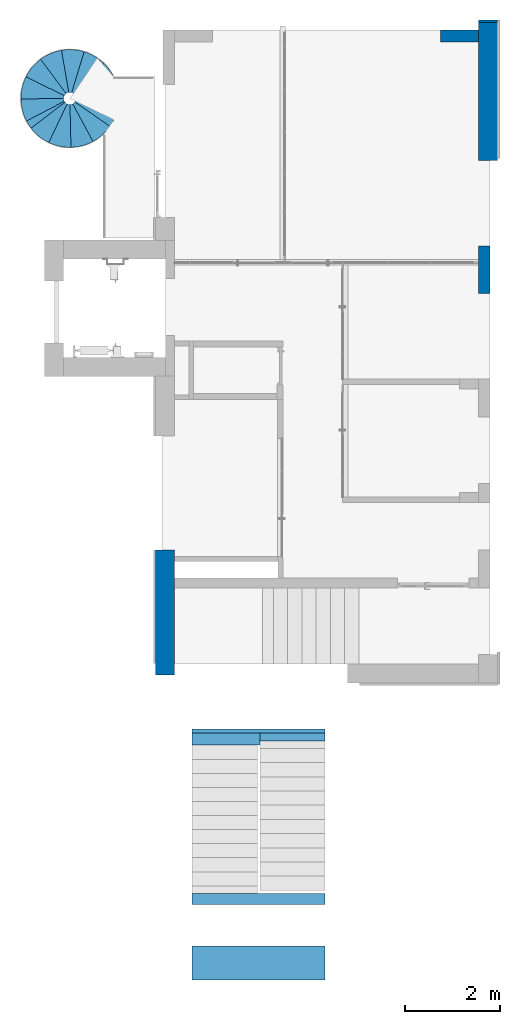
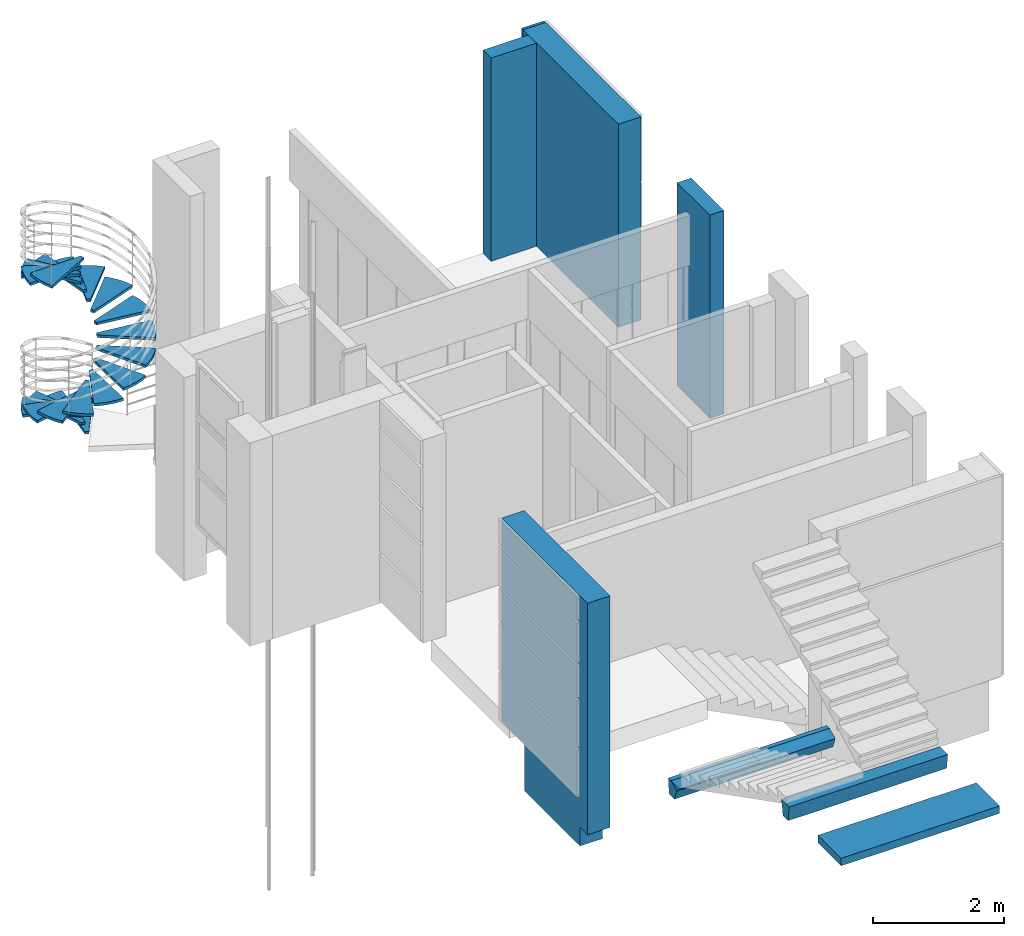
# One storey, part 7 of 14: 5 walls, 4 stairs, 1 stair flight, 5 elements without a shape of their own.
"""IFC2X3 building model written with IfcOpenShell, lengths in millimetres."""

from ifc_helpers import new_model, entity, si_unit, converted_unit, derived_unit, direction, frame, frame_2d, origin, place, context, subcontext, project, spatial, polyline, circle_curve, parameter, trimmed, segment, composite_curve, rectangle, outline, extrude, faceted_brep, material, layer, layer_set, layer_usage, type_object, element, aggregate, save


model = new_model("IFC2X3")

# Units and contexts
model_context = context("Model", 3, precision=0.01, world=origin(), true_north=direction((6.12303176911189e-17, 1.0)))
body_context = subcontext(model_context, "Body", "Model", "MODEL_VIEW")
ifc_project = project(units=[si_unit("LENGTHUNIT", "METRE", prefix="MILLI"), si_unit("AREAUNIT", "SQUARE_METRE"), si_unit("VOLUMEUNIT", "CUBIC_METRE"), converted_unit("PLANEANGLEUNIT", "DEGREE", entity("IfcRatioMeasure", 0.0174532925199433), si_unit("PLANEANGLEUNIT", "RADIAN"), dimensions=[0, 0, 0, 0, 0, 0, 0]), si_unit("MASSUNIT", "GRAM", prefix="KILO"), derived_unit("MASSDENSITYUNIT", [(si_unit("MASSUNIT", "GRAM", prefix="KILO"), 1), (si_unit("LENGTHUNIT", "METRE"), -3)]), si_unit("TIMEUNIT", "SECOND"), si_unit("FREQUENCYUNIT", "HERTZ"), si_unit("THERMODYNAMICTEMPERATUREUNIT", "DEGREE_CELSIUS"), derived_unit("THERMALTRANSMITTANCEUNIT", [(si_unit("MASSUNIT", "GRAM", prefix="KILO"), 1), (si_unit("THERMODYNAMICTEMPERATUREUNIT", "KELVIN"), -1), (si_unit("TIMEUNIT", "SECOND"), -3)]), derived_unit("VOLUMETRICFLOWRATEUNIT", [(si_unit("LENGTHUNIT", "METRE"), 3), (si_unit("TIMEUNIT", "SECOND"), -1)]), si_unit("ELECTRICCURRENTUNIT", "AMPERE"), si_unit("ELECTRICVOLTAGEUNIT", "VOLT"), si_unit("POWERUNIT", "WATT"), si_unit("FORCEUNIT", "NEWTON", prefix="KILO"), si_unit("ILLUMINANCEUNIT", "LUX"), si_unit("LUMINOUSFLUXUNIT", "LUMEN"), si_unit("LUMINOUSINTENSITYUNIT", "CANDELA"), derived_unit("USERDEFINED", [(si_unit("MASSUNIT", "GRAM", prefix="KILO"), -1), (si_unit("LENGTHUNIT", "METRE"), -2), (si_unit("TIMEUNIT", "SECOND"), 3), (si_unit("LUMINOUSFLUXUNIT", "LUMEN"), 1)]), derived_unit("LINEARVELOCITYUNIT", [(si_unit("LENGTHUNIT", "METRE"), 1), (si_unit("TIMEUNIT", "SECOND"), -1)]), si_unit("PRESSUREUNIT", "PASCAL"), derived_unit("USERDEFINED", [(si_unit("LENGTHUNIT", "METRE"), -2), (si_unit("MASSUNIT", "GRAM", prefix="KILO"), 1), (si_unit("TIMEUNIT", "SECOND"), -2)])], contexts=[model_context])

# Site, building, storey
site_placement = place(None, frame((-151.875543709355, 2715.0, 0.0)))
site = spatial("IfcSite", under=ifc_project, at=site_placement, Name="Surface", CompositionType="ELEMENT")
building_placement = place(site_placement, origin())
building = spatial("IfcBuilding", under=site, at=building_placement, CompositionType="ELEMENT")
storey_placement = place(building_placement, frame((0.0, 0.0, 3875.0)))
storey = spatial("IfcBuildingStorey", under=building, at=storey_placement, Name="uus 2 korrus", CompositionType="ELEMENT", Elevation=3875.00000000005)

# Walls
ifc_material_1 = material(Name="__Tuuletõkkeplaat")
ifc_layer_1 = layer(ifc_material_1, 9.0)
ifc_material_2 = material(Name="__Soojustus EPS")
ifc_layer_2 = layer(ifc_material_2, 200.0)
ifc_material_3 = material(Name="__Kergblokk")
ifc_layer_3 = layer(ifc_material_3, 190.0)
ifc_layer_set_1 = layer_set([ifc_layer_1, ifc_layer_2, ifc_layer_3], Name="Basic Wall:VS-2.2_Juurdeehituse välissein")
wall_type_1 = type_object("IfcWallType", Name="Basic Wall:VS-2.2_Juurdeehituse välissein", PredefinedType="STANDARD", material=ifc_layer_set_1)
wall_1_placement = place(storey_placement, frame((31802.1162682, 12980.0, -875.0), z_axis=(0.0, 0.0, 1.0), x_axis=(0.0, 1.0, 0.0)))
element("IfcWall", 1, at=wall_1_placement, inside=storey, type_object=wall_type_1, Name="Basic Wall:VS-2.2_Juurdeehituse välissein", ObjectType="Basic Wall:VS-2.2_Juurdeehituse välissein", context=body_context, shape_type="Brep", body=[
    faceted_brep([(230.0, -199.500000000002, 0.0), (1935.0, -199.500000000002, 0.0), (1935.0, -199.500000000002, 875.0), (2040.0, -199.500000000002, 875.0), (2630.0, -199.500000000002, 875.0), (2630.0, -199.500000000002, 4670.0), (0.0, -199.500000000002, 4670.0), (0.0, -199.500000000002, 350.0), (230.0, -199.500000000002, 350.0), (230.0, 199.499999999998, 0.0), (230.0, 199.499999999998, 350.0), (0.0, 199.499999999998, 350.0), (0.0, 199.499999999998, 4670.0), (2630.0, 199.499999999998, 4670.0), (2630.0, 199.499999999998, 875.0), (1935.0, 199.499999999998, 875.0), (1935.0, 199.499999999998, 0.0)], [[[0, 1, 2, 3, 4, 5, 6, 7, 8]], [[9, 10, 11, 12, 13, 14, 15, 16]], [[4, 3, 2, 15, 14]], [[5, 4, 14, 13]], [[6, 5, 13, 12]], [[1, 0, 9, 16]], [[2, 1, 16, 15]], [[7, 11, 10, 8]], [[6, 12, 11, 7]], [[0, 8, 10, 9]]]),
])
ifc_layer_usage_1 = layer_usage(ifc_layer_set_1, "AXIS2", "NEGATIVE", 199.5)
wall_2_placement = place(storey_placement, frame((38596.1162682, 26719.0, 0.0), z_axis=(0.0, 0.0, 1.0), x_axis=(0.0, -1.0, 0.0)))
element("IfcWallStandardCase", 2, at=wall_2_placement, inside=storey, type_object=wall_type_1, material=ifc_layer_usage_1, Name="Basic Wall:VS-2.2_Juurdeehituse välissein", ObjectType="Basic Wall:VS-2.2_Juurdeehituse välissein", context=body_context, shape_type="SweptSolid", body=[
    extrude(rectangle(XDim=2908.999570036, YDim=398.999999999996, at=frame_2d((1454.499785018, -4.68958205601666e-13), x_axis=(-1.0, 0.0))), origin(), (0.0, 0.0, 1.0), 3795.0),
])
ifc_layer_4 = layer(ifc_material_2, 57.0)
ifc_layer_5 = layer(ifc_material_3, 190.0)
ifc_layer_set_2 = layer_set([ifc_layer_4, ifc_layer_5], Name="Basic Wall:VS-2.1_Juurdeehituse välissein 2")
ifc_layer_usage_2 = layer_usage(ifc_layer_set_2, "AXIS2", "NEGATIVE", 123.5)
wall_type_2 = type_object("IfcWallType", Name="Basic Wall:VS-2.1_Juurdeehituse välissein 2", PredefinedType="STANDARD", material=ifc_layer_set_2)
wall_3_placement = place(storey_placement, frame((38520.1162682, 22009.955126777, 0.0), z_axis=(0.0, 0.0, 1.0), x_axis=(0.0, -1.0, 0.0)))
element("IfcWallStandardCase", 3, at=wall_3_placement, inside=storey, type_object=wall_type_2, material=ifc_layer_usage_2, Name="Basic Wall:VS-2.1_Juurdeehituse välissein 2", ObjectType="Basic Wall:VS-2.1_Juurdeehituse välissein 2", context=body_context, shape_type="SweptSolid", body=[
    extrude(rectangle(XDim=1000.0000000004, YDim=246.999999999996, at=frame_2d((500.000000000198, -7.24753590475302e-13), x_axis=(-1.0, 0.0))), origin(), (0.0, 0.0, 1.0), 3795.0),
])
ifc_layer_usage_3 = layer_usage(ifc_layer_set_2, "AXIS2", "NEGATIVE", 123.5)
wall_4_placement = place(storey_placement, frame((37596.1162682, 26433.5000265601, 0.0)))
element("IfcWallStandardCase", 4, at=wall_4_placement, inside=storey, type_object=wall_type_2, material=ifc_layer_usage_3, Name="Basic Wall:VS-2.1_Juurdeehituse välissein 2", ObjectType="Basic Wall:VS-2.1_Juurdeehituse välissein 2", context=body_context, shape_type="SweptSolid", body=[
    extrude(rectangle(XDim=800.500000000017, YDim=246.999999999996, at=frame_2d((400.250000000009, -1.46371803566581e-12), x_axis=(-1.0, 0.0))), origin(), (0.0, 0.0, 1.0), 3795.0),
])
ifc_material_4 = material(Name="Steel/Aluminium")
wall_type_3 = type_object("IfcWallType", Name="fassaad2.2:fassaad2.2", PredefinedType="NOTDEFINED", material=ifc_material_4)
wall_5_placement = place(storey_placement, frame((38395.6162681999, 26719.0, 50.0)))
element("IfcWall", 5, at=wall_5_placement, inside=storey, type_object=wall_type_3, material=ifc_material_4, Name="fassaad2.2:fassaad2.2", ObjectType="fassaad2.2:fassaad2.2", context=body_context, shape_type="SweptSolid", body=[
    extrude(rectangle(XDim=50.0000000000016, YDim=400.0, at=frame_2d((2.16715534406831e-12, -2.17426077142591e-12), x_axis=(1.0, 0.0))), frame((200.0, 25.0, 2500.0), z_axis=(0.0, 0.0, 1.0), x_axis=(0.0, -1.0, 0.0)), (0.0, 0.0, 1.0), 1245.0),
    extrude(rectangle(XDim=50.0000000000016, YDim=400.0, at=frame_2d((2.16715534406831e-12, -2.17426077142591e-12), x_axis=(1.0, 0.0))), frame((200.0, 25.0, 0.0), z_axis=(0.0, 0.0, 1.0), x_axis=(0.0, -1.0, 0.0)), (0.0, 0.0, 1.0), 2450.0),
])

# Stairs
stair_1_placement = place(storey_placement, origin())
stair_1 = element("IfcStair", 6, at=stair_1_placement, inside=storey, Name="OBJEKT-020:OBJEKT-020", ObjectType="OBJEKT-020:OBJEKT-020", ShapeType="NOTDEFINED")
ifc_material_5 = material(Name="Paint - Sand Beige")
stair_2_placement = place(stair_1_placement, origin())
stair_2 = element("IfcStair", 7, at=stair_2_placement, material=ifc_material_5, Name="OBJEKT-020:OBJEKT-020", ObjectType="OBJEKT-020:OBJEKT-020", ShapeType="NOTDEFINED", context=body_context, shape_type="SweptSolid", body=[
    extrude(outline(polyline([(-79.7068565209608, -149.9794262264), (85.43749816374, -149.9794262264), (111.953889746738, 128.5468799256), (30.1071849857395, 128.5468799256), (-147.791716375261, 42.8650926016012), (-79.7068565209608, -149.9794262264)])), frame((32371.6162682, 11734.6102683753, 823.969199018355), z_axis=(1.0, 0.0, 0.0), x_axis=(0.0, 1.0, 0.0)), (0.0, 0.0, 1.0), 2800.0),
])
aggregate(stair_1, [stair_2])

stair_3_placement = place(storey_placement, origin())
stair_3 = element("IfcStair", 8, at=stair_3_placement, inside=storey, Name="OBJEKT-020 87690:OBJEKT-020 87690", ObjectType="OBJEKT-020 87690:OBJEKT-020 87690", ShapeType="NOTDEFINED")
stair_4_placement = place(stair_3_placement, origin())
stair_4 = element("IfcStair", 9, at=stair_4_placement, material=ifc_material_5, Name="OBJEKT-020 87690:OBJEKT-020 87690", ObjectType="OBJEKT-020 87690:OBJEKT-020 87690", ShapeType="NOTDEFINED", context=body_context, shape_type="SweptSolid", body=[
    extrude(outline(polyline([(-146.685564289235, -28.5605957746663), (115.472227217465, -28.5605957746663), (31.2133370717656, 57.1211915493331), (-146.685564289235, -28.5605957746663)])), frame((32371.6162682, 11618.0318890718, 923.955483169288), z_axis=(1.0, 0.0, 0.0), x_axis=(0.0, -1.0, 0.0)), (0.0, 0.0, 1.0), 1430.0),
])
aggregate(stair_3, [stair_4])

stair_5_placement = place(storey_placement, origin())
stair_5 = element("IfcStair", 10, at=stair_5_placement, inside=storey, Name="OBJEKT-015:OBJEKT-015", ObjectType="OBJEKT-015:OBJEKT-015", ShapeType="NOTDEFINED")
stair_6_placement = place(stair_5_placement, origin())
stair_6 = element("IfcStair", 11, at=stair_6_placement, material=ifc_material_5, Name="OBJEKT-015:OBJEKT-015", ObjectType="OBJEKT-015:OBJEKT-015", ShapeType="NOTDEFINED", context=body_context, shape_type="SweptSolid", body=[
    extrude(outline(polyline([(-153.647057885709, -98.87637503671), (128.316392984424, -98.87637503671), (148.374161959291, 57.7116573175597), (-123.043497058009, 140.041092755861), (-153.647057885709, -98.87637503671)])), frame((32371.61626818, 8261.82177479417, 2518.37301254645), z_axis=(1.0, 0.0, 0.0), x_axis=(0.0, 0.12705450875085, -0.991895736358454)), (0.0, 0.0, 1.0), 2800.000000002),
])
aggregate(stair_5, [stair_6])

stair_7_placement = place(storey_placement, origin())
stair_7 = element("IfcStair", 12, at=stair_7_placement, inside=storey, Name="OBJEKT-016:OBJEKT-016", ObjectType="OBJEKT-016:OBJEKT-016", ShapeType="NOTDEFINED")
stair_8_placement = place(stair_7_placement, origin())
stair_8 = element("IfcStair", 13, at=stair_8_placement, material=ifc_material_5, Name="OBJEKT-016:OBJEKT-016", ObjectType="OBJEKT-016:OBJEKT-016", ShapeType="NOTDEFINED", context=body_context, shape_type="SweptSolid", body=[
    extrude(rectangle(XDim=711.445520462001, YDim=2800.000000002, at=frame_2d((-5.6843418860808e-13, 0.0), x_axis=(1.0, 0.0))), frame((33771.616268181, 6915.722760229, 2518.24331283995), z_axis=(0.0, 0.0, 1.0), x_axis=(0.0, -1.0, 0.0)), (0.0, 0.0, 1.0), 139.96887207),
])
aggregate(stair_7, [stair_8])

# Stair, stair flight
stair_9_placement = place(storey_placement, origin())
stair_9 = element("IfcStair", 14, at=stair_9_placement, inside=storey, Name="Assembled Stair:Stair", ObjectType="Assembled Stair:Keerdtrepp", ShapeType="NOTDEFINED")
ifc_material_6 = material(Name="Metal - Galvanized")
stair_flight_placement = place(stair_9_placement, origin())
stair_flight = element("IfcStairFlight", 15, at=stair_flight_placement, material=ifc_material_6, Name="Assembled Stair:Stair:1373376 Run 1", ObjectType="Assembled Stair:Keerdtrepp", NumberOfRiser=20, NumberOfTreads=19, RiserHeight=0.62253937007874, TreadLength=0.885826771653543, context=body_context, shape_type="SweptSolid", body=[
    extrude(outline(composite_curve([segment(polyline([(273.214023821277, -343.218479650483), (-50.8759192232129, 496.40388118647)]), True, "CONTINUOUS"), segment(trimmed(circle_curve(frame_2d((320.027015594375, -464.497265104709), x_axis=(1.0, 0.0)), 1030.0), [parameter(111.106333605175)], [parameter(138.025409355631)], True, "PARAMETER"), True, "CONTINUOUS"), segment(polyline([(-445.717725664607, 224.367737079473), (223.379621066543, -377.553138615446)]), True, "CONTINUOUS"), segment(trimmed(circle_curve(frame_2d((320.027015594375, -464.497265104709), x_axis=(1.0, 0.0)), 130.0), [parameter(111.106333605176)], [parameter(138.02540935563)], True, "PARAMETER"), False, "CONTINUOUS")], self_intersect=False)), frame((29993.0722789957, 25645.9343585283, 139.75), z_axis=(0.0, 0.0, -1.0), x_axis=(-0.970129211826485, -0.242588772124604, 0.0)), (0.0, 0.0, -1.0), 50.0),
    extrude(outline(composite_curve([segment(polyline([(273.214023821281, -343.218479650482), (-50.8759192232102, 496.403881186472)]), True, "CONTINUOUS"), segment(trimmed(circle_curve(frame_2d((320.027015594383, -464.497265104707), x_axis=(1.0, 0.0)), 1030.0), [parameter(111.106333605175)], [parameter(138.025409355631)], True, "PARAMETER"), True, "CONTINUOUS"), segment(polyline([(-445.717725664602, 224.367737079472), (223.379621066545, -377.553138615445)]), True, "CONTINUOUS"), segment(trimmed(circle_curve(frame_2d((320.027015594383, -464.497265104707), x_axis=(1.0, 0.0)), 130.0), [parameter(111.106333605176)], [parameter(138.02540935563)], True, "PARAMETER"), False, "CONTINUOUS")], self_intersect=False)), frame((29732.4827896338, 25678.2398639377, 329.5), z_axis=(0.0, 0.0, -1.0), x_axis=(-0.755185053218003, -0.655511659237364, 0.0)), (0.0, 0.0, -1.0), 50.0),
    extrude(outline(composite_curve([segment(polyline([(273.214023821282, -343.218479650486), (-50.8759192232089, 496.403881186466)]), True, "CONTINUOUS"), segment(trimmed(circle_curve(frame_2d((320.027015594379, -464.497265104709), x_axis=(1.0, 0.0)), 1030.0), [parameter(111.106333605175)], [parameter(138.025409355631)], True, "PARAMETER"), True, "CONTINUOUS"), segment(polyline([(-445.7177256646, 224.367737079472), (223.379621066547, -377.553138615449)]), True, "CONTINUOUS"), segment(trimmed(circle_curve(frame_2d((320.027015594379, -464.497265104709), x_axis=(1.0, 0.0)), 130.0), [parameter(111.106333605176)], [parameter(138.02540935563)], True, "PARAMETER"), False, "CONTINUOUS")], self_intersect=False)), frame((29485.5032695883, 25589.0678710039, 519.25), z_axis=(0.0, 0.0, -1.0), x_axis=(-0.376587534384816, -0.926381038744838, 0.0)), (0.0, 0.0, -1.0), 50.0),
    extrude(outline(composite_curve([segment(polyline([(273.214023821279, -343.218479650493), (-50.8759192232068, 496.40388118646)]), True, "CONTINUOUS"), segment(trimmed(circle_curve(frame_2d((320.027015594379, -464.497265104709), x_axis=(1.0, 0.0)), 1030.0), [parameter(111.106333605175)], [parameter(138.025409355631)], True, "PARAMETER"), True, "CONTINUOUS"), segment(polyline([(-445.717725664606, 224.367737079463), (223.379621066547, -377.55313861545)]), True, "CONTINUOUS"), segment(trimmed(circle_curve(frame_2d((320.027015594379, -464.497265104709), x_axis=(1.0, 0.0)), 130.0), [parameter(111.106333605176)], [parameter(138.02540935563)], True, "PARAMETER"), False, "CONTINUOUS")], self_intersect=False)), frame((29305.6557373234, 25397.7425125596, 709.0), z_axis=(0.0, 0.0, -1.0), x_axis=(0.0836188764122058, -0.996497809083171, 0.0)), (0.0, 0.0, -1.0), 50.0),
    extrude(outline(composite_curve([segment(polyline([(273.214023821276, -343.218479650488), (-50.8759192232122, 496.403881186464)]), True, "CONTINUOUS"), segment(trimmed(circle_curve(frame_2d((320.027015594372, -464.497265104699), x_axis=(1.0, 0.0)), 1030.0), [parameter(111.106333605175)], [parameter(138.025409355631)], True, "PARAMETER"), True, "CONTINUOUS"), segment(polyline([(-445.717725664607, 224.367737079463), (223.37962106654, -377.553138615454)]), True, "CONTINUOUS"), segment(trimmed(circle_curve(frame_2d((320.027015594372, -464.497265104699), x_axis=(1.0, 0.0)), 130.0), [parameter(111.106333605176)], [parameter(138.02540935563)], True, "PARAMETER"), False, "CONTINUOUS")], self_intersect=False)), frame((29231.9142864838, 25145.7251995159, 898.75), z_axis=(0.0, 0.0, -1.0), x_axis=(0.525704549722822, -0.850667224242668, 0.0)), (0.0, 0.0, -1.0), 50.0),
    extrude(outline(composite_curve([segment(polyline([(273.21402382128, -343.218479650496), (-50.8759192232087, 496.403881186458)]), True, "CONTINUOUS"), segment(trimmed(circle_curve(frame_2d((320.02701559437, -464.497265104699), x_axis=(1.0, 0.0)), 1030.0), [parameter(111.106333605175)], [parameter(138.025409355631)], True, "PARAMETER"), True, "CONTINUOUS"), segment(polyline([(-445.717725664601, 224.367737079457), (223.379621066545, -377.553138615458)]), True, "CONTINUOUS"), segment(trimmed(circle_curve(frame_2d((320.02701559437, -464.497265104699), x_axis=(1.0, 0.0)), 130.0), [parameter(111.106333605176)], [parameter(138.02540935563)], True, "PARAMETER"), False, "CONTINUOUS")], self_intersect=False)), frame((29280.2591541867, 24887.6296718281, 1088.5), z_axis=(0.0, 0.0, -1.0), x_axis=(0.853866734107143, -0.520491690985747, 0.0)), (0.0, 0.0, -1.0), 49.9999999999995),
    extrude(outline(composite_curve([segment(polyline([(273.214023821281, -343.218479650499), (-50.8759192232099, 496.403881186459)]), True, "CONTINUOUS"), segment(trimmed(circle_curve(frame_2d((320.027015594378, -464.497265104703), x_axis=(1.0, 0.0)), 1030.0), [parameter(111.106333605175)], [parameter(138.025409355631)], True, "PARAMETER"), True, "CONTINUOUS"), segment(polyline([(-445.717725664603, 224.36773707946), (223.379621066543, -377.553138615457)]), True, "CONTINUOUS"), segment(trimmed(circle_curve(frame_2d((320.027015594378, -464.497265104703), x_axis=(1.0, 0.0)), 130.0), [parameter(111.106333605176)], [parameter(138.02540935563)], True, "PARAMETER"), False, "CONTINUOUS")], self_intersect=False)), frame((29440.2137029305, 24679.3868568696, 1278.25), z_axis=(0.0, 0.0, -1.0), x_axis=(0.996990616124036, -0.0775223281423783, 0.0)), (0.0, 0.0, -1.0), 49.9999999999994),
    extrude(outline(composite_curve([segment(polyline([(273.21402382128, -343.218479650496), (-50.8759192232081, 496.403881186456)]), True, "CONTINUOUS"), segment(trimmed(circle_curve(frame_2d((320.027015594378, -464.497265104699), x_axis=(1.0, 0.0)), 1030.0), [parameter(111.106333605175)], [parameter(138.025409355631)], True, "PARAMETER"), True, "CONTINUOUS"), segment(polyline([(-445.717725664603, 224.36773707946), (223.37962106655, -377.553138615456)]), True, "CONTINUOUS"), segment(trimmed(circle_curve(frame_2d((320.027015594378, -464.497265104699), x_axis=(1.0, 0.0)), 130.0), [parameter(111.106333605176)], [parameter(138.02540935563)], True, "PARAMETER"), False, "CONTINUOUS")], self_intersect=False)), frame((29677.1147739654, 24566.1242849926, 1468.0), z_axis=(0.0, 0.0, -1.0), x_axis=(0.924060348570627, 0.382246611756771, 0.0)), (0.0, 0.0, -1.0), 49.9999999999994),
    extrude(outline(composite_curve([segment(polyline([(273.214023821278, -343.218479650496), (-50.8759192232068, 496.40388118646)]), True, "CONTINUOUS"), segment(trimmed(circle_curve(frame_2d((320.027015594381, -464.497265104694), x_axis=(1.0, 0.0)), 1030.0), [parameter(111.106333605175)], [parameter(138.025409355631)], True, "PARAMETER"), True, "CONTINUOUS"), segment(polyline([(-445.717725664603, 224.367737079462), (223.379621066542, -377.553138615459)]), True, "CONTINUOUS"), segment(trimmed(circle_curve(frame_2d((320.027015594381, -464.497265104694), x_axis=(1.0, 0.0)), 130.0), [parameter(111.106333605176)], [parameter(138.02540935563)], True, "PARAMETER"), False, "CONTINUOUS")], self_intersect=False)), frame((29939.6244122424, 24572.386669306, 1657.75), z_axis=(0.0, 0.0, -1.0), x_axis=(0.650880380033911, 0.759180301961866, 0.0)), (0.0, 0.0, -1.0), 49.9999999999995),
    extrude(outline(composite_curve([segment(polyline([(273.21402382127, -343.218479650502), (-50.8759192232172, 496.403881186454)]), True, "CONTINUOUS"), segment(trimmed(circle_curve(frame_2d((320.027015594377, -464.497265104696), x_axis=(1.0, 0.0)), 1030.0), [parameter(111.106333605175)], [parameter(138.025409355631)], True, "PARAMETER"), True, "CONTINUOUS"), segment(polyline([(-445.717725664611, 224.367737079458), (223.379621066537, -377.553138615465)]), True, "CONTINUOUS"), segment(trimmed(circle_curve(frame_2d((320.027015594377, -464.497265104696), x_axis=(1.0, 0.0)), 130.0), [parameter(111.106333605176)], [parameter(138.02540935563)], True, "PARAMETER"), False, "CONTINUOUS")], self_intersect=False)), frame((30170.8551248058, 24696.8169116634, 1847.5), z_axis=(0.0, 0.0, -1.0), x_axis=(0.236650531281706, 0.971594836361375, 0.0)), (0.0, 0.0, -1.0), 49.9999999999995),
    extrude(outline(composite_curve([segment(polyline([(273.214023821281, -343.218479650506), (-50.8759192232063, 496.403881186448)]), True, "CONTINUOUS"), segment(trimmed(circle_curve(frame_2d((320.027015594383, -464.497265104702), x_axis=(1.0, 0.0)), 1030.0), [parameter(111.106333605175)], [parameter(138.025409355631)], True, "PARAMETER"), True, "CONTINUOUS"), segment(polyline([(-445.717725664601, 224.367737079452), (223.379621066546, -377.553138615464)]), True, "CONTINUOUS"), segment(trimmed(circle_curve(frame_2d((320.027015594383, -464.497265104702), x_axis=(1.0, 0.0)), 130.0), [parameter(111.106333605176)], [parameter(138.02540935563)], True, "PARAMETER"), False, "CONTINUOUS")], self_intersect=False)), frame((30320.6977590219, 24912.4501943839, 2037.25), z_axis=(0.0, 0.0, -1.0), x_axis=(-0.228862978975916, 0.9734586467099, 0.0)), (0.0, 0.0, -1.0), 49.9999999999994),
    extrude(outline(composite_curve([segment(polyline([(273.214023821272, -343.218479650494), (-50.8759192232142, 496.403881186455)]), True, "CONTINUOUS"), segment(trimmed(circle_curve(frame_2d((320.027015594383, -464.497265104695), x_axis=(1.0, 0.0)), 1030.0), [parameter(111.106333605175)], [parameter(138.025409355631)], True, "PARAMETER"), True, "CONTINUOUS"), segment(polyline([(-445.717725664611, 224.36773707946), (223.379621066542, -377.553138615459)]), True, "CONTINUOUS"), segment(trimmed(circle_curve(frame_2d((320.027015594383, -464.497265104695), x_axis=(1.0, 0.0)), 130.0), [parameter(111.106333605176)], [parameter(138.02540935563)], True, "PARAMETER"), False, "CONTINUOUS")], self_intersect=False)), frame((30356.6804717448, 25172.5574261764, 2227.0), z_axis=(0.0, 0.0, -1.0), x_axis=(-0.6447804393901, 0.764367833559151, 0.0)), (0.0, 0.0, -1.0), 49.9999999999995),
    extrude(outline(composite_curve([segment(polyline([(273.214023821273, -343.218479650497), (-50.8759192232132, 496.403881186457)]), True, "CONTINUOUS"), segment(trimmed(circle_curve(frame_2d((320.027015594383, -464.497265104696), x_axis=(1.0, 0.0)), 1030.0), [parameter(111.106333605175)], [parameter(138.025409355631)], True, "PARAMETER"), True, "CONTINUOUS"), segment(polyline([(-445.717725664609, 224.367737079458), (223.37962106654, -377.553138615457)]), True, "CONTINUOUS"), segment(trimmed(circle_curve(frame_2d((320.027015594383, -464.497265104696), x_axis=(1.0, 0.0)), 130.0), [parameter(111.106333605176)], [parameter(138.02540935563)], True, "PARAMETER"), False, "CONTINUOUS")], self_intersect=False)), frame((30271.0055823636, 25420.7717307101, 2416.75), z_axis=(0.0, 0.0, -1.0), x_axis=(-0.920969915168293, 0.389633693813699, 0.0)), (0.0, 0.0, -1.0), 49.9999999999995),
    extrude(outline(composite_curve([segment(polyline([(273.214023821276, -343.218479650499), (-50.8759192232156, 496.403881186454)]), True, "CONTINUOUS"), segment(trimmed(circle_curve(frame_2d((320.027015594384, -464.497265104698), x_axis=(1.0, 0.0)), 1030.0), [parameter(111.106333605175)], [parameter(138.025409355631)], True, "PARAMETER"), True, "CONTINUOUS"), segment(polyline([(-445.71772566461, 224.367737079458), (223.379621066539, -377.553138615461)]), True, "CONTINUOUS"), segment(trimmed(circle_curve(frame_2d((320.027015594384, -464.497265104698), x_axis=(1.0, 0.0)), 130.0), [parameter(111.106333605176)], [parameter(138.02540935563)], True, "PARAMETER"), False, "CONTINUOUS")], self_intersect=False)), frame((30082.2393793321, 25603.3035039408, 2606.5), z_axis=(0.0, 0.0, -1.0), x_axis=(-0.997579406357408, -0.0695365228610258, 0.0)), (0.0, 0.0, -1.0), 49.9999999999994),
    extrude(outline(composite_curve([segment(polyline([(273.214023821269, -343.218479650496), (-50.8759192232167, 496.403881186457)]), True, "CONTINUOUS"), segment(trimmed(circle_curve(frame_2d((320.027015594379, -464.497265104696), x_axis=(1.0, 0.0)), 1030.0), [parameter(111.106333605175)], [parameter(138.025409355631)], True, "PARAMETER"), True, "CONTINUOUS"), segment(polyline([(-445.717725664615, 224.36773707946), (223.379621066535, -377.553138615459)]), True, "CONTINUOUS"), segment(trimmed(circle_curve(frame_2d((320.027015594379, -464.497265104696), x_axis=(1.0, 0.0)), 130.0), [parameter(111.106333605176)], [parameter(138.02540935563)], True, "PARAMETER"), False, "CONTINUOUS")], self_intersect=False)), frame((29831.2886884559, 25680.5969602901, 2796.25), z_axis=(0.0, 0.0, -1.0), x_axis=(-0.858007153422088, -0.513637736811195, 0.0)), (0.0, 0.0, -1.0), 49.9999999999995),
    extrude(outline(composite_curve([segment(polyline([(273.214023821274, -343.218479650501), (-50.8759192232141, 496.403881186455)]), True, "CONTINUOUS"), segment(trimmed(circle_curve(frame_2d((320.027015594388, -464.497265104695), x_axis=(1.0, 0.0)), 1030.0), [parameter(111.106333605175)], [parameter(138.025409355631)], True, "PARAMETER"), True, "CONTINUOUS"), segment(polyline([(-445.717725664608, 224.367737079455), (223.379621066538, -377.553138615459)]), True, "CONTINUOUS"), segment(trimmed(circle_curve(frame_2d((320.027015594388, -464.497265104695), x_axis=(1.0, 0.0)), 130.0), [parameter(111.106333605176)], [parameter(138.02540935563)], True, "PARAMETER"), False, "CONTINUOUS")], self_intersect=False)), frame((29572.5361059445, 25635.9021206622, 2986.0), z_axis=(0.0, 0.0, -1.0), x_axis=(-0.532499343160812, -0.846430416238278, 0.0)), (0.0, 0.0, -1.0), 49.9999999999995),
    extrude(outline(composite_curve([segment(polyline([(273.214023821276, -343.218479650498), (-50.8759192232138, 496.403881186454)]), True, "CONTINUOUS"), segment(trimmed(circle_curve(frame_2d((320.027015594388, -464.497265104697), x_axis=(1.0, 0.0)), 1030.0), [parameter(111.106333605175)], [parameter(138.025409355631)], True, "PARAMETER"), True, "CONTINUOUS"), segment(polyline([(-445.717725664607, 224.367737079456), (223.37962106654, -377.553138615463)]), True, "CONTINUOUS"), segment(trimmed(circle_curve(frame_2d((320.027015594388, -464.497265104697), x_axis=(1.0, 0.0)), 130.0), [parameter(111.106333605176)], [parameter(138.02540935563)], True, "PARAMETER"), False, "CONTINUOUS")], self_intersect=False)), frame((29362.0549470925, 25478.9046384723, 3175.75), z_axis=(0.0, 0.0, -1.0), x_axis=(-0.0915955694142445, -0.995796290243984, 0.0)), (0.0, 0.0, -1.0), 49.9999999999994),
    extrude(outline(composite_curve([segment(polyline([(273.214023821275, -343.218479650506), (-50.8759192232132, 496.403881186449)]), True, "CONTINUOUS"), segment(trimmed(circle_curve(frame_2d((320.027015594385, -464.497265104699), x_axis=(1.0, 0.0)), 1030.0), [parameter(111.106333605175)], [parameter(138.025409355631)], True, "PARAMETER"), True, "CONTINUOUS"), segment(polyline([(-445.717725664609, 224.367737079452), (223.37962106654, -377.553138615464)]), True, "CONTINUOUS"), segment(trimmed(circle_curve(frame_2d((320.027015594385, -464.497265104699), x_axis=(1.0, 0.0)), 130.0), [parameter(111.106333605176)], [parameter(138.02540935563)], True, "PARAMETER"), False, "CONTINUOUS")], self_intersect=False)), frame((29245.4578054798, 25243.6268575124, 3365.5), z_axis=(0.0, 0.0, -1.0), x_axis=(0.36915754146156, -0.929366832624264, 0.0)), (0.0, 0.0, -1.0), 49.9999999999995),
    extrude(outline(composite_curve([segment(polyline([(273.214023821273, -343.218479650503), (-50.8759192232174, 496.403881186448)]), True, "CONTINUOUS"), segment(trimmed(circle_curve(frame_2d((320.027015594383, -464.497265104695), x_axis=(1.0, 0.0)), 1030.0), [parameter(111.106333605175)], [parameter(138.025409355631)], True, "PARAMETER"), True, "CONTINUOUS"), segment(polyline([(-445.717725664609, 224.367737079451), (223.379621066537, -377.553138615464)]), True, "CONTINUOUS"), segment(trimmed(circle_curve(frame_2d((320.027015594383, -464.497265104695), x_axis=(1.0, 0.0)), 130.0), [parameter(111.106333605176)], [parameter(138.02540935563)], True, "PARAMETER"), False, "CONTINUOUS")], self_intersect=False)), frame((29248.0120164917, 24981.0549556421, 3555.25), z_axis=(0.0, 0.0, -1.0), x_axis=(0.749911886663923, -0.661537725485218, 0.0)), (0.0, 0.0, -1.0), 49.9999999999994),
])
aggregate(stair_9, [stair_flight])

save(model, "model.ifc")
